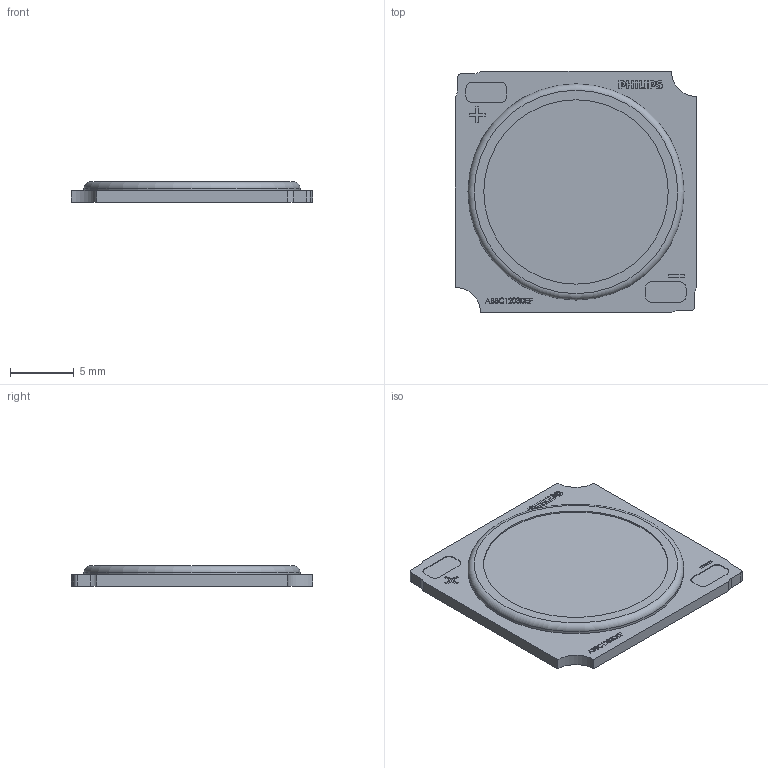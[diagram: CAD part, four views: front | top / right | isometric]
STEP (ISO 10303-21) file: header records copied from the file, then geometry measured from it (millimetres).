
FILE_DESCRIPTION(/* description */ (''),/* implementation_level */ '2;1');
FILE_NAME(/* name */ '1205 1206 1208 1210 G8N 20240722.stp',/* time_stamp */ '2024-08-15T16:11:37+08:00',/* author */ (''),/* organization */ (''),/* preprocessor_version */ 'ST-DEVELOPER v19.4',/* originating_system */ 'SIEMENS PLM Software NX2212.8901',/* authorisation */ '');
FILE_SCHEMA (('AUTOMOTIVE_DESIGN { 1 0 10303 214 3 1 1 1 }'));
Length unit declared in the file: millimetre
Products named in the file (1): 1205 1206 1208 1210  G8N 20240722_objects
Bounding box: 19 x 19 x 1.6 mm (x, y, z)
Volume: 455.1 mm3; surface area: 807 mm2
Topology: 1 solids, 1 shells, 486 faces, 1351 edges, 901 vertices
Faces by surface type: plane 404, extrusion 63, cylinder 18, torus 1
Full cylindrical faces by diameter (mm): 14.5 x1, 17 x1
Entity records: 18261 total; most frequent: CARTESIAN_POINT 5806, ORIENTED_EDGE 2692, DIRECTION 2170, EDGE_CURVE 1346, VECTOR 1244, LINE 1181, VERTEX_POINT 899, EDGE_LOOP 523
